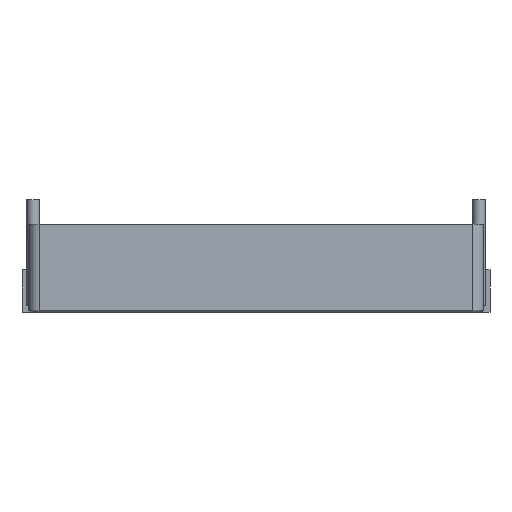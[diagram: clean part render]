
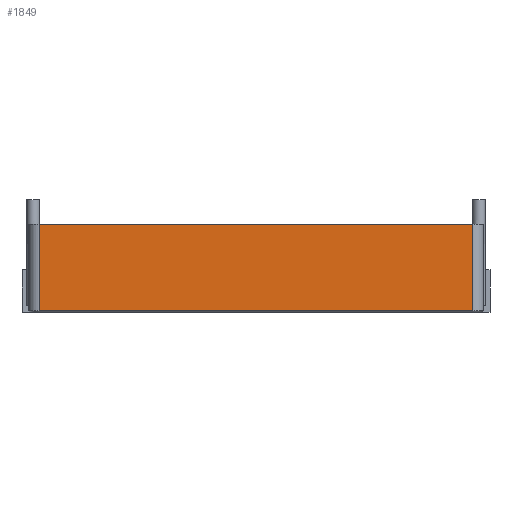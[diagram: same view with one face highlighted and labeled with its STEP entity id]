
A CAD part, front view. The second image highlights one B-rep face of the part: STEP entity #1849.
In plain terms, the highlighted planar face has unit normal (0, -1, 0).
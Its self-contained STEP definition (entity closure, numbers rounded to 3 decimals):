
#62 = CYLINDRICAL_SURFACE('',#63,5.);
#63 = AXIS2_PLACEMENT_3D('',#64,#65,#66);
#64 = CARTESIAN_POINT('',(-102.,-188.15,-26.5));
#65 = DIRECTION('',(0.,0.,1.));
#66 = DIRECTION('',(-1.,-0.,0.));
#353 = PLANE('',#354);
#354 = AXIS2_PLACEMENT_3D('',#355,#356,#357);
#355 = CARTESIAN_POINT('',(-107.,-193.15,15.));
#356 = DIRECTION('',(0.,0.,1.));
#357 = DIRECTION('',(1.,0.,0.));
#370 = VERTEX_POINT('',#371);
#371 = CARTESIAN_POINT('',(-102.,-193.15,-25.9));
#398 = EDGE_CURVE('',#370,#399,#401,.T.);
#399 = VERTEX_POINT('',#400);
#400 = CARTESIAN_POINT('',(-102.,-193.15,15.));
#401 = SURFACE_CURVE('',#402,(#406,#413),.PCURVE_S1.);
#402 = LINE('',#403,#404);
#403 = CARTESIAN_POINT('',(-102.,-193.15,-26.5));
#404 = VECTOR('',#405,1.);
#405 = DIRECTION('',(0.,0.,1.));
#406 = PCURVE('',#62,#407);
#407 = DEFINITIONAL_REPRESENTATION('',(#408),#412);
#408 = LINE('',#409,#410);
#409 = CARTESIAN_POINT('',(1.571,0.));
#410 = VECTOR('',#411,1.);
#411 = DIRECTION('',(0.,1.));
#412 = ( GEOMETRIC_REPRESENTATION_CONTEXT(2) 
PARAMETRIC_REPRESENTATION_CONTEXT() REPRESENTATION_CONTEXT('2D SPACE',''
  ) );
#413 = PCURVE('',#414,#419);
#414 = PLANE('',#415);
#415 = AXIS2_PLACEMENT_3D('',#416,#417,#418);
#416 = CARTESIAN_POINT('',(-107.,-193.15,-26.5));
#417 = DIRECTION('',(0.,1.,0.));
#418 = DIRECTION('',(0.,0.,1.));
#419 = DEFINITIONAL_REPRESENTATION('',(#420),#424);
#420 = LINE('',#421,#422);
#421 = CARTESIAN_POINT('',(0.,5.));
#422 = VECTOR('',#423,1.);
#423 = DIRECTION('',(1.,0.));
#424 = ( GEOMETRIC_REPRESENTATION_CONTEXT(2) 
PARAMETRIC_REPRESENTATION_CONTEXT() REPRESENTATION_CONTEXT('2D SPACE',''
  ) );
#481 = EDGE_CURVE('',#399,#482,#484,.T.);
#482 = VERTEX_POINT('',#483);
#483 = CARTESIAN_POINT('',(102.,-193.15,15.));
#484 = SURFACE_CURVE('',#485,(#489,#496),.PCURVE_S1.);
#485 = LINE('',#486,#487);
#486 = CARTESIAN_POINT('',(-107.,-193.15,15.));
#487 = VECTOR('',#488,1.);
#488 = DIRECTION('',(1.,0.,0.));
#489 = PCURVE('',#353,#490);
#490 = DEFINITIONAL_REPRESENTATION('',(#491),#495);
#491 = LINE('',#492,#493);
#492 = CARTESIAN_POINT('',(0.,0.));
#493 = VECTOR('',#494,1.);
#494 = DIRECTION('',(1.,0.));
#495 = ( GEOMETRIC_REPRESENTATION_CONTEXT(2) 
PARAMETRIC_REPRESENTATION_CONTEXT() REPRESENTATION_CONTEXT('2D SPACE',''
  ) );
#496 = PCURVE('',#414,#497);
#497 = DEFINITIONAL_REPRESENTATION('',(#498),#502);
#498 = LINE('',#499,#500);
#499 = CARTESIAN_POINT('',(41.5,0.));
#500 = VECTOR('',#501,1.);
#501 = DIRECTION('',(0.,1.));
#502 = ( GEOMETRIC_REPRESENTATION_CONTEXT(2) 
PARAMETRIC_REPRESENTATION_CONTEXT() REPRESENTATION_CONTEXT('2D SPACE',''
  ) );
#525 = CYLINDRICAL_SURFACE('',#526,5.);
#526 = AXIS2_PLACEMENT_3D('',#527,#528,#529);
#527 = CARTESIAN_POINT('',(102.,-188.15,-26.5));
#528 = DIRECTION('',(0.,0.,1.));
#529 = DIRECTION('',(1.,0.,-0.));
#1810 = PLANE('',#1811);
#1811 = AXIS2_PLACEMENT_3D('',#1812,#1813,#1814);
#1812 = CARTESIAN_POINT('',(102.,-192.85,-26.2));
#1813 = DIRECTION('',(0.,-0.707,-0.707));
#1814 = DIRECTION('',(-1.,-0.,0.));
#1849 = ADVANCED_FACE('',(#1850),#414,.F.);
#1850 = FACE_BOUND('',#1851,.F.);
#1851 = EDGE_LOOP('',(#1852,#1853,#1854,#1877));
#1852 = ORIENTED_EDGE('',*,*,#398,.T.);
#1853 = ORIENTED_EDGE('',*,*,#481,.T.);
#1854 = ORIENTED_EDGE('',*,*,#1855,.F.);
#1855 = EDGE_CURVE('',#1856,#482,#1858,.T.);
#1856 = VERTEX_POINT('',#1857);
#1857 = CARTESIAN_POINT('',(102.,-193.15,-25.9));
#1858 = SURFACE_CURVE('',#1859,(#1863,#1870),.PCURVE_S1.);
#1859 = LINE('',#1860,#1861);
#1860 = CARTESIAN_POINT('',(102.,-193.15,-26.5));
#1861 = VECTOR('',#1862,1.);
#1862 = DIRECTION('',(0.,0.,1.));
#1863 = PCURVE('',#414,#1864);
#1864 = DEFINITIONAL_REPRESENTATION('',(#1865),#1869);
#1865 = LINE('',#1866,#1867);
#1866 = CARTESIAN_POINT('',(0.,209.));
#1867 = VECTOR('',#1868,1.);
#1868 = DIRECTION('',(1.,0.));
#1869 = ( GEOMETRIC_REPRESENTATION_CONTEXT(2) 
PARAMETRIC_REPRESENTATION_CONTEXT() REPRESENTATION_CONTEXT('2D SPACE',''
  ) );
#1870 = PCURVE('',#525,#1871);
#1871 = DEFINITIONAL_REPRESENTATION('',(#1872),#1876);
#1872 = LINE('',#1873,#1874);
#1873 = CARTESIAN_POINT('',(-1.571,0.));
#1874 = VECTOR('',#1875,1.);
#1875 = DIRECTION('',(-0.,1.));
#1876 = ( GEOMETRIC_REPRESENTATION_CONTEXT(2) 
PARAMETRIC_REPRESENTATION_CONTEXT() REPRESENTATION_CONTEXT('2D SPACE',''
  ) );
#1877 = ORIENTED_EDGE('',*,*,#1878,.T.);
#1878 = EDGE_CURVE('',#1856,#370,#1879,.T.);
#1879 = SURFACE_CURVE('',#1880,(#1884,#1891),.PCURVE_S1.);
#1880 = LINE('',#1881,#1882);
#1881 = CARTESIAN_POINT('',(102.,-193.15,-25.9));
#1882 = VECTOR('',#1883,1.);
#1883 = DIRECTION('',(-1.,-0.,-0.));
#1884 = PCURVE('',#414,#1885);
#1885 = DEFINITIONAL_REPRESENTATION('',(#1886),#1890);
#1886 = LINE('',#1887,#1888);
#1887 = CARTESIAN_POINT('',(0.6,209.));
#1888 = VECTOR('',#1889,1.);
#1889 = DIRECTION('',(-0.,-1.));
#1890 = ( GEOMETRIC_REPRESENTATION_CONTEXT(2) 
PARAMETRIC_REPRESENTATION_CONTEXT() REPRESENTATION_CONTEXT('2D SPACE',''
  ) );
#1891 = PCURVE('',#1810,#1892);
#1892 = DEFINITIONAL_REPRESENTATION('',(#1893),#1897);
#1893 = LINE('',#1894,#1895);
#1894 = CARTESIAN_POINT('',(0.,-0.424));
#1895 = VECTOR('',#1896,1.);
#1896 = DIRECTION('',(1.,0.));
#1897 = ( GEOMETRIC_REPRESENTATION_CONTEXT(2) 
PARAMETRIC_REPRESENTATION_CONTEXT() REPRESENTATION_CONTEXT('2D SPACE',''
  ) );
